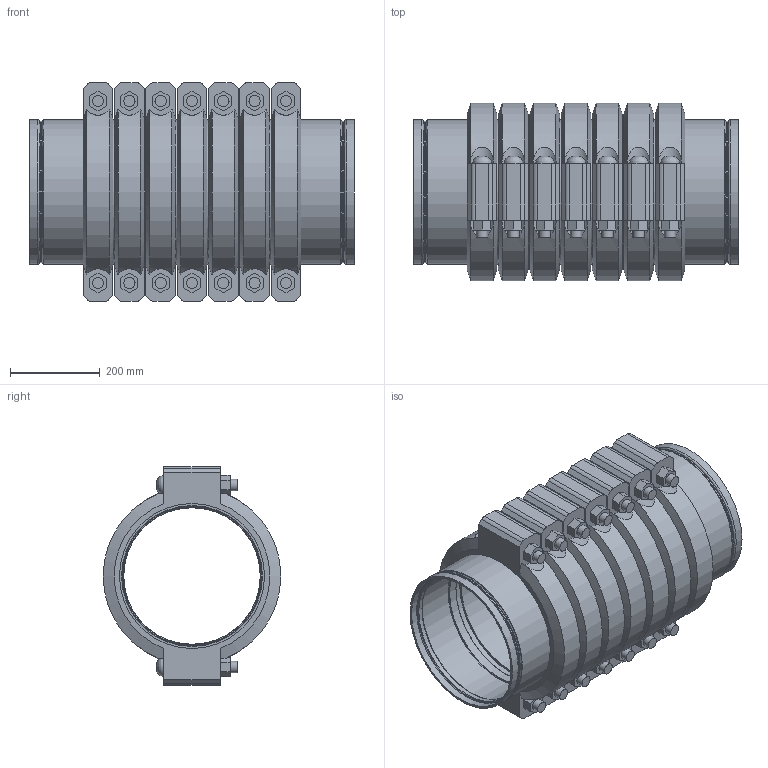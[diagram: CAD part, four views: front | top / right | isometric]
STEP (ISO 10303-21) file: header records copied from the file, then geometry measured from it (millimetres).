
FILE_DESCRIPTION(/* description */ ('VIC STRENGTHIN 100 EXPANSION JOINT 7 COUPLINGS COMPRESSED STYLE E155 (ST1)','CAx-IF Rec.Pracs.---Representation and Presentation of Product Manufacturing Information (PMI)---4.0---2014-10-13'),/* implementation_level */ '2;1');
FILE_NAME(/* name */ 'C:\Users\Vjadhav\AppData\Roaming\Autodesk\ApplicationPlugins\Victaulic.Temp\A926\Victaulic_SS-StrengThin 100_Expansion Joint_Compressed_7 Couplings_Style E155 (ST1)_12 (300).stp',/* time_stamp */ '2021-07-23T12:35:25+05:00',/* author */ ('kkamble'),/* organization */ ('Victaulic'),/* preprocessor_version */ 'ST-DEVELOPER v17.2',/* originating_system */ 'Autodesk Inventor 2019',/* authorisation */ '');
FILE_SCHEMA (('AP242_MANAGED_MODEL_BASED_3D_ENGINEERING_MIM_LF { 1 0 10303 442 1 1 4 }'));
Length unit declared in the file: inch
Products named in the file (4): E155-12.0; E494G-12.0; Nipple-12.0; 077-12.0
Assembly tree (15 placements, depth 2):
  E155-12.0
    E494G-12.0  x2
    Nipple-12.0  x6
    077-12.0  x7
Bounding box: 724.66 x 397 x 488.95 mm (x, y, z)
Volume: 28883771.1 mm3; surface area: 3844562.2 mm2
Topology: 15 solids, 29 shells, 541 faces, 1383 edges, 976 vertices
Faces by surface type: plane 288, cylinder 175, torus 32, cone 32, bspline 14
Full cylindrical faces by diameter (mm): 25.4 x28, 27.432 x14, 304.8 x6, 306.426 x2, 308.737 x2, 314.3 x6, 315.976 x2, 318.287 x14, 323.85 x31
Entity records: 3986 total; most frequent: CARTESIAN_POINT 820, DIRECTION 677, ORIENTED_EDGE 568, AXIS2_PLACEMENT_3D 292, EDGE_CURVE 284, VERTEX_POINT 205, CIRCLE 171, EDGE_LOOP 129
